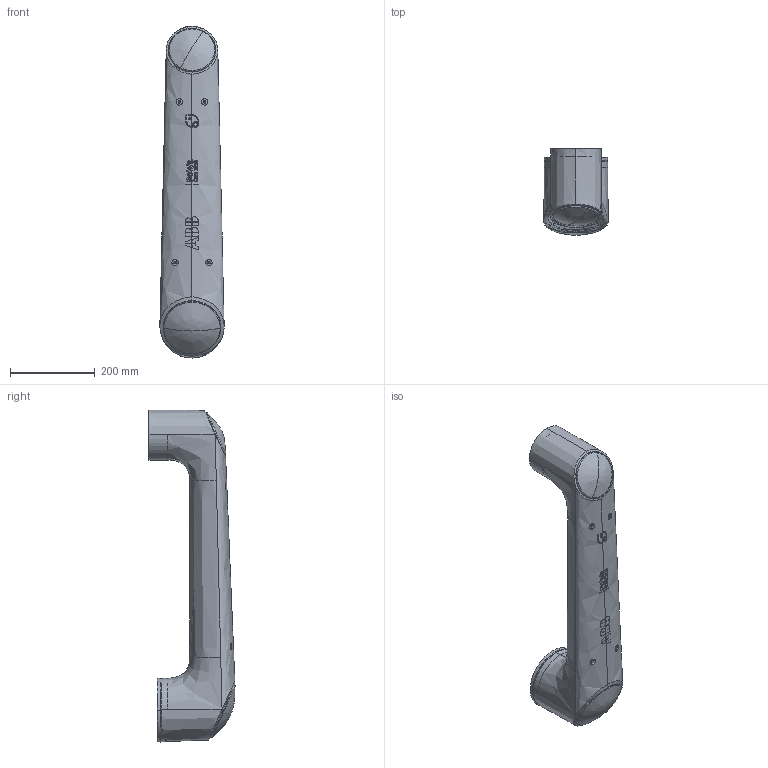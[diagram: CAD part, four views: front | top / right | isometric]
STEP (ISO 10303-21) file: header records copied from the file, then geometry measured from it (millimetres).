
FILE_DESCRIPTION (( 'STEP AP214' ), '1' );
FILE_NAME ('CRB1910_13kg-1340_OmniCore_rev00_Link2.step', '2026-03-26T03:33:49', ( '' ), ( '' ), 'SwSTEP 2.0', 'SolidWorks 2022', '' );
FILE_SCHEMA (( 'AUTOMOTIVE_DESIGN' ));
Length unit declared in the file: millimetre
Products named in the file (1): CRB1910_13kg-1340_OmniCore_rev00_Link2
Bounding box: 151.86 x 203.34 x 784.55 mm (x, y, z)
Volume: 10196435.2 mm3; surface area: 387663.7 mm2
Topology: 1 solids, 1 shells, 462 faces, 1187 edges, 759 vertices
Faces by surface type: bspline 374, cylinder 36, plane 32, cone 12, torus 8
Entity records: 84089 total; most frequent: CARTESIAN_POINT 75613, ORIENTED_EDGE 2350, EDGE_CURVE 1175, B_SPLINE_CURVE_WITH_KNOTS 1014, VERTEX_POINT 759, EDGE_LOOP 506, FACE_OUTER_BOUND 462, ADVANCED_FACE 462
